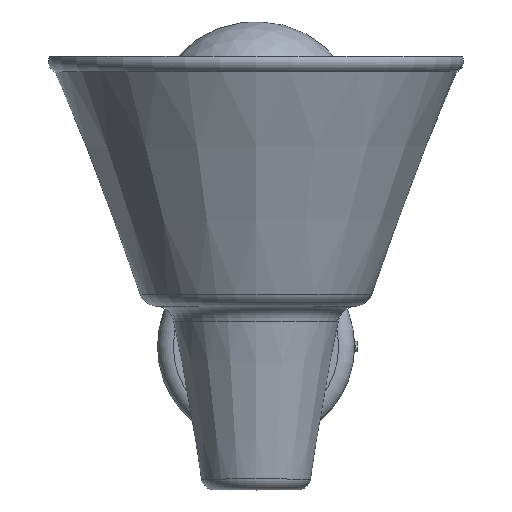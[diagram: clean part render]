
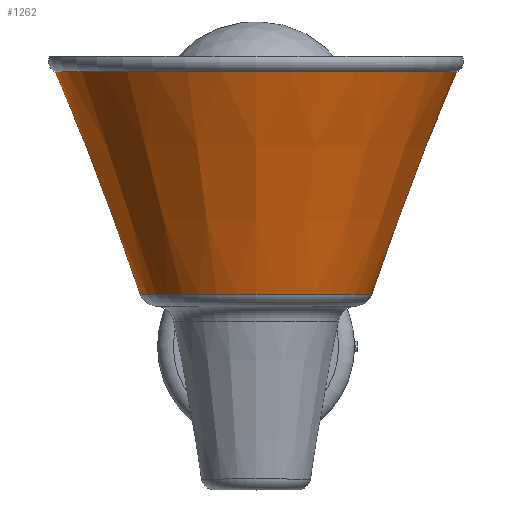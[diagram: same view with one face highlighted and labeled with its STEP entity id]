
A CAD part, top view. The second image highlights one B-rep face of the part: STEP entity #1262.
In plain terms, the highlighted conical face has half-angle 20.911 degrees and reference radius 59.385 mm.
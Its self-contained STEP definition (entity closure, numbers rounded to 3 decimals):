
#63=CONICAL_SURFACE('',#1602,59.385,0.365);
#224=CIRCLE('',#1601,44.056);
#225=CIRCLE('',#1603,76.427);
#226=CIRCLE('',#1604,76.427);
#227=CIRCLE('',#1605,76.427);
#313=FACE_OUTER_BOUND('',#395,.T.);
#395=EDGE_LOOP('',(#980,#981,#982,#983,#984,#985));
#475=LINE('',#2451,#526);
#526=VECTOR('',#1885,59.385);
#619=VERTEX_POINT('',#2442);
#620=VERTEX_POINT('',#2446);
#621=VERTEX_POINT('',#2447);
#622=VERTEX_POINT('',#2449);
#754=EDGE_CURVE('',#619,#619,#224,.T.);
#755=EDGE_CURVE('',#620,#621,#225,.T.);
#756=EDGE_CURVE('',#622,#620,#226,.T.);
#757=EDGE_CURVE('',#622,#619,#475,.T.);
#758=EDGE_CURVE('',#621,#622,#227,.T.);
#980=ORIENTED_EDGE('',*,*,#755,.F.);
#981=ORIENTED_EDGE('',*,*,#756,.F.);
#982=ORIENTED_EDGE('',*,*,#757,.T.);
#983=ORIENTED_EDGE('',*,*,#754,.F.);
#984=ORIENTED_EDGE('',*,*,#757,.F.);
#985=ORIENTED_EDGE('',*,*,#758,.F.);
#1262=ADVANCED_FACE('',(#313),#63,.T.);
#1601=AXIS2_PLACEMENT_3D('',#2444,#1877,#1878);
#1602=AXIS2_PLACEMENT_3D('',#2445,#1879,#1880);
#1603=AXIS2_PLACEMENT_3D('',#2448,#1881,#1882);
#1604=AXIS2_PLACEMENT_3D('',#2450,#1883,#1884);
#1605=AXIS2_PLACEMENT_3D('',#2452,#1886,#1887);
#1877=DIRECTION('center_axis',(0.,1.,0.));
#1878=DIRECTION('ref_axis',(1.,0.,0.));
#1879=DIRECTION('center_axis',(0.,-1.,0.));
#1880=DIRECTION('ref_axis',(1.,0.,0.));
#1881=DIRECTION('center_axis',(0.,-1.,0.));
#1882=DIRECTION('ref_axis',(1.,0.,0.));
#1883=DIRECTION('center_axis',(0.,-1.,0.));
#1884=DIRECTION('ref_axis',(1.,0.,0.));
#1885=DIRECTION('',(0.357,0.934,0.));
#1886=DIRECTION('center_axis',(0.,-1.,0.));
#1887=DIRECTION('ref_axis',(1.,0.,0.));
#2442=CARTESIAN_POINT('',(-44.056,90.516,0.));
#2444=CARTESIAN_POINT('Origin',(0.,90.516,0.));
#2445=CARTESIAN_POINT('Origin',(0.,50.397,0.));
#2446=CARTESIAN_POINT('',(76.427,5.793,0.));
#2447=CARTESIAN_POINT('',(0.,5.793,76.427));
#2448=CARTESIAN_POINT('Origin',(0.,5.793,0.));
#2449=CARTESIAN_POINT('',(-76.427,5.793,0.));
#2450=CARTESIAN_POINT('Origin',(0.,5.793,0.));
#2451=CARTESIAN_POINT('',(-59.385,50.397,0.));
#2452=CARTESIAN_POINT('Origin',(0.,5.793,0.));
